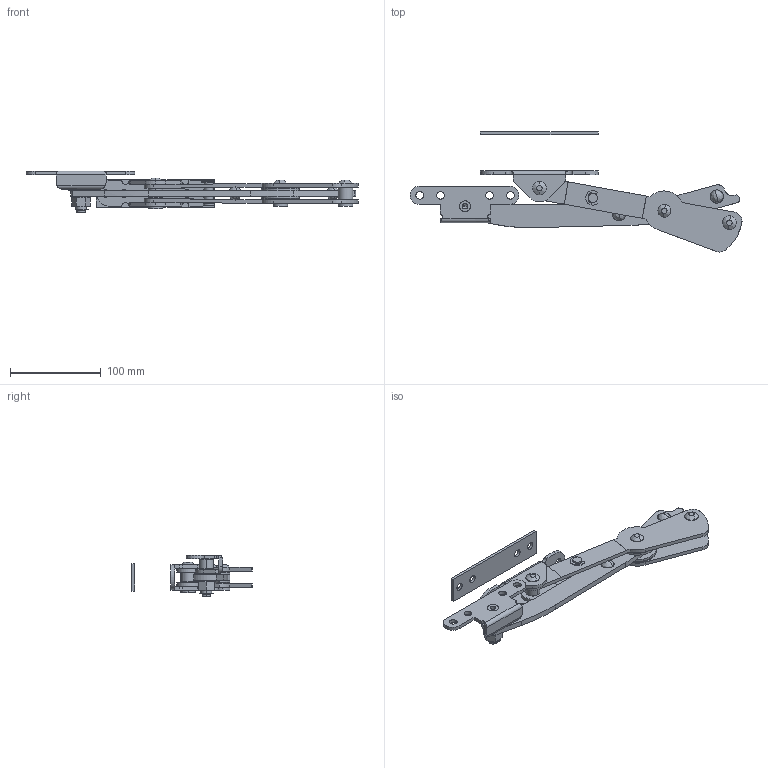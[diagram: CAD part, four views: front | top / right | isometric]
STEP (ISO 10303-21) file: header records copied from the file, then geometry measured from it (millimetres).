
FILE_DESCRIPTION (( 'STEP AP203' ), '1' );
FILE_NAME ('DS-27.STEP', '2013-07-11T09:18:35', ( 'SDS' ), ( 'SDS' ), 'SwSTEP 2.0', 'SolidWorks 2002296', '' );
FILE_SCHEMA (( 'CONFIG_CONTROL_DESIGN' ));
Length unit declared in the file: millimetre
Products named in the file (14): DS-27; DS-271_蹬怮椔; DS-272_蹬怮椔; DS-273_蹬怮椔; DS-274_蹬怮椔; DS-275_蹬怮椔; DS-276_蹬怮椔; DS-277_蹬怮椔; DS-278_蹬怮椔; DS-279_蹬怮椔; DS-2710_蹬怮椔; DS-2711_蹬怮椔; DS-2712_蹬怮椔; DS-2713_蹬怮椔
Assembly tree (13 placements, depth 2):
  DS-27
    DS-277_蹬怮椔
    DS-2712_蹬怮椔
    DS-2713_蹬怮椔
    DS-276_蹬怮椔
    DS-279_蹬怮椔
    DS-272_蹬怮椔
    DS-274_蹬怮椔
    DS-273_蹬怮椔
    DS-2711_蹬怮椔
    DS-2710_蹬怮椔
    DS-271_蹬怮椔
    DS-278_蹬怮椔
    DS-275_蹬怮椔
Bounding box: 366.2 x 132.48 x 45.8 mm (x, y, z)
Volume: 184768.6 mm3; surface area: 100649.4 mm2
Topology: 13 solids, 18 shells, 410 faces, 1042 edges, 685 vertices
Faces by surface type: cylinder 242, plane 135, cone 19, bspline 14
Entity records: 14740 total; most frequent: CARTESIAN_POINT 3071, DIRECTION 2240, ORIENTED_EDGE 2064, EDGE_CURVE 1032, AXIS2_PLACEMENT_3D 892, VERTEX_POINT 685, EDGE_LOOP 495, CIRCLE 480
